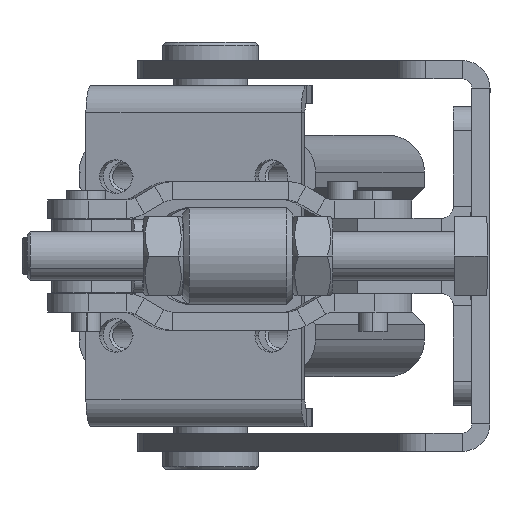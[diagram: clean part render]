
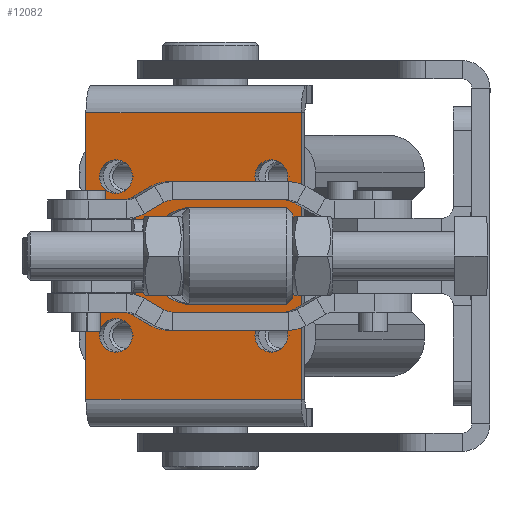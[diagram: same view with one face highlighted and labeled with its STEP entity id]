
A CAD part, left-side view. The second image highlights one B-rep face of the part: STEP entity #12082.
In plain terms, the highlighted planar face has unit normal (-0.98, 0.201, 0) as drawn and (0, -1, 0) by its records, which use the part's own axes.
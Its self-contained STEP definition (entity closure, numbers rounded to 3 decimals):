
#73 = ORIENTED_EDGE ( 'NONE', *, *, #9367, .T. ) ;
#237 = FACE_BOUND ( 'NONE', #19068, .T. ) ;
#436 = VERTEX_POINT ( 'NONE', #11365 ) ;
#507 = CARTESIAN_POINT ( 'NONE',  ( -23.5, -3., -3.767 ) ) ;
#638 = CARTESIAN_POINT ( 'NONE',  ( -13., -3., -13. ) ) ;
#655 = VECTOR ( 'NONE', #1910, 1000. ) ;
#730 = FACE_BOUND ( 'NONE', #8076, .T. ) ;
#732 = DIRECTION ( 'NONE',  ( 0., 1., 0. ) ) ;
#739 = ORIENTED_EDGE ( 'NONE', *, *, #15134, .F. ) ;
#893 = EDGE_CURVE ( 'NONE', #13934, #7459, #4825, .T. ) ;
#1109 = ORIENTED_EDGE ( 'NONE', *, *, #13000, .T. ) ;
#1194 = CIRCLE ( 'NONE', #18077, 2.75 ) ;
#1288 = EDGE_CURVE ( 'NONE', #7865, #11873, #16010, .T. ) ;
#1362 = DIRECTION ( 'NONE',  ( 0., 1., 0. ) ) ;
#1608 = DIRECTION ( 'NONE',  ( 0., 1., 0. ) ) ;
#1910 = DIRECTION ( 'NONE',  ( 1., 0., 0. ) ) ;
#1993 = AXIS2_PLACEMENT_3D ( 'NONE', #10108, #732, #11688 ) ;
#2063 = CIRCLE ( 'NONE', #9134, 8. ) ;
#2211 = DIRECTION ( 'NONE',  ( 0., 0., 1. ) ) ;
#2347 = EDGE_CURVE ( 'NONE', #436, #12020, #2063, .T. ) ;
#2918 = AXIS2_PLACEMENT_3D ( 'NONE', #8384, #19265, #9949 ) ;
#3128 = LINE ( 'NONE', #507, #6305 ) ;
#3155 = VERTEX_POINT ( 'NONE', #3231 ) ;
#3231 = CARTESIAN_POINT ( 'NONE',  ( -13., -3., -15.75 ) ) ;
#3416 = DIRECTION ( 'NONE',  ( 0., 1., 0. ) ) ;
#3472 = CARTESIAN_POINT ( 'NONE',  ( 13., -3., -13. ) ) ;
#3599 = DIRECTION ( 'NONE',  ( 0., 0., -1. ) ) ;
#3650 = DIRECTION ( 'NONE',  ( 0., 0., -1. ) ) ;
#3942 = DIRECTION ( 'NONE',  ( 0., 1., 0. ) ) ;
#4602 = VERTEX_POINT ( 'NONE', #12447 ) ;
#4652 = ORIENTED_EDGE ( 'NONE', *, *, #14852, .F. ) ;
#4659 = EDGE_CURVE ( 'NONE', #13631, #3155, #6659, .T. ) ;
#4825 = LINE ( 'NONE', #17594, #655 ) ;
#5042 = DIRECTION ( 'NONE',  ( 0., 0., 1. ) ) ;
#5124 = CIRCLE ( 'NONE', #9197, 2.75 ) ;
#5216 = CARTESIAN_POINT ( 'NONE',  ( -13., -3., 15.75 ) ) ;
#5496 = CIRCLE ( 'NONE', #14109, 2.75 ) ;
#5704 = PLANE ( 'NONE',  #19222 ) ;
#5927 = VERTEX_POINT ( 'NONE', #15326 ) ;
#6231 = CARTESIAN_POINT ( 'NONE',  ( 13., -3., 13. ) ) ;
#6289 = EDGE_CURVE ( 'NONE', #3155, #13631, #5124, .T. ) ;
#6305 = VECTOR ( 'NONE', #3650, 1000. ) ;
#6356 = CARTESIAN_POINT ( 'NONE',  ( -13., -3., -13. ) ) ;
#6418 = AXIS2_PLACEMENT_3D ( 'NONE', #3472, #14381, #5042 ) ;
#6431 = EDGE_LOOP ( 'NONE', ( #15275, #9558 ) ) ;
#6659 = CIRCLE ( 'NONE', #6949, 2.75 ) ;
#6949 = AXIS2_PLACEMENT_3D ( 'NONE', #6356, #17507, #8188 ) ;
#7098 = VERTEX_POINT ( 'NONE', #19720 ) ;
#7276 = DIRECTION ( 'NONE',  ( 0., 1., 0. ) ) ;
#7459 = VERTEX_POINT ( 'NONE', #9683 ) ;
#7504 = EDGE_CURVE ( 'NONE', #12020, #436, #15572, .T. ) ;
#7602 = VERTEX_POINT ( 'NONE', #13447 ) ;
#7751 = VECTOR ( 'NONE', #18203, 1000. ) ;
#7790 = DIRECTION ( 'NONE',  ( 0., 0., 1. ) ) ;
#7865 = VERTEX_POINT ( 'NONE', #17224 ) ;
#8068 = FACE_OUTER_BOUND ( 'NONE', #8493, .T. ) ;
#8076 = EDGE_LOOP ( 'NONE', ( #1109, #15830 ) ) ;
#8088 = EDGE_CURVE ( 'NONE', #13934, #4602, #3128, .T. ) ;
#8188 = DIRECTION ( 'NONE',  ( 0., 0., 1. ) ) ;
#8209 = LINE ( 'NONE', #12959, #20169 ) ;
#8384 = CARTESIAN_POINT ( 'NONE',  ( -13., -3., 13. ) ) ;
#8493 = EDGE_LOOP ( 'NONE', ( #4652, #11198, #19581, #739 ) ) ;
#8665 = CIRCLE ( 'NONE', #13999, 2.75 ) ;
#8709 = ORIENTED_EDGE ( 'NONE', *, *, #7504, .T. ) ;
#8839 = EDGE_LOOP ( 'NONE', ( #73, #14600 ) ) ;
#9134 = AXIS2_PLACEMENT_3D ( 'NONE', #12785, #3416, #14329 ) ;
#9172 = AXIS2_PLACEMENT_3D ( 'NONE', #13300, #3942, #14836 ) ;
#9197 = AXIS2_PLACEMENT_3D ( 'NONE', #638, #11587, #2211 ) ;
#9367 = EDGE_CURVE ( 'NONE', #7602, #7098, #11419, .T. ) ;
#9511 = EDGE_LOOP ( 'NONE', ( #12590, #15352 ) ) ;
#9558 = ORIENTED_EDGE ( 'NONE', *, *, #1288, .T. ) ;
#9683 = CARTESIAN_POINT ( 'NONE',  ( 23.5, -3., 18. ) ) ;
#9949 = DIRECTION ( 'NONE',  ( 0., 0., 1. ) ) ;
#10108 = CARTESIAN_POINT ( 'NONE',  ( 0., -3., 0. ) ) ;
#10742 = CARTESIAN_POINT ( 'NONE',  ( -13., -3., 13. ) ) ;
#10980 = CARTESIAN_POINT ( 'NONE',  ( 13., -3., -13. ) ) ;
#11198 = ORIENTED_EDGE ( 'NONE', *, *, #893, .F. ) ;
#11365 = CARTESIAN_POINT ( 'NONE',  ( 0., -3., 8. ) ) ;
#11419 = CIRCLE ( 'NONE', #6418, 2.75 ) ;
#11587 = DIRECTION ( 'NONE',  ( 0., 1., 0. ) ) ;
#11688 = DIRECTION ( 'NONE',  ( 0., 0., 1. ) ) ;
#11873 = VERTEX_POINT ( 'NONE', #5216 ) ;
#12020 = VERTEX_POINT ( 'NONE', #19529 ) ;
#12082 = ADVANCED_FACE ( 'NONE', ( #16345, #730, #12716, #12249, #8068, #237 ), #5704, .F. ) ;
#12249 = FACE_BOUND ( 'NONE', #9511, .T. ) ;
#12323 = DIRECTION ( 'NONE',  ( 0., 0., 1. ) ) ;
#12447 = CARTESIAN_POINT ( 'NONE',  ( -23.5, -3., -18. ) ) ;
#12480 = VERTEX_POINT ( 'NONE', #17453 ) ;
#12553 = DIRECTION ( 'NONE',  ( 0., 0., 1. ) ) ;
#12590 = ORIENTED_EDGE ( 'NONE', *, *, #4659, .T. ) ;
#12716 = FACE_BOUND ( 'NONE', #8839, .T. ) ;
#12785 = CARTESIAN_POINT ( 'NONE',  ( 0., -3., 0. ) ) ;
#12959 = CARTESIAN_POINT ( 'NONE',  ( 23.5, -3., -3.767 ) ) ;
#13000 = EDGE_CURVE ( 'NONE', #12480, #13728, #1194, .T. ) ;
#13046 = CIRCLE ( 'NONE', #9172, 2.75 ) ;
#13300 = CARTESIAN_POINT ( 'NONE',  ( 13., -3., 13. ) ) ;
#13447 = CARTESIAN_POINT ( 'NONE',  ( 13., -3., -10.25 ) ) ;
#13631 = VERTEX_POINT ( 'NONE', #15452 ) ;
#13728 = VERTEX_POINT ( 'NONE', #14089 ) ;
#13934 = VERTEX_POINT ( 'NONE', #19174 ) ;
#13999 = AXIS2_PLACEMENT_3D ( 'NONE', #10980, #1608, #12553 ) ;
#14089 = CARTESIAN_POINT ( 'NONE',  ( 13., -3., 10.25 ) ) ;
#14109 = AXIS2_PLACEMENT_3D ( 'NONE', #10742, #1362, #12323 ) ;
#14329 = DIRECTION ( 'NONE',  ( 0., 0., 1. ) ) ;
#14381 = DIRECTION ( 'NONE',  ( 0., 1., 0. ) ) ;
#14600 = ORIENTED_EDGE ( 'NONE', *, *, #17325, .T. ) ;
#14836 = DIRECTION ( 'NONE',  ( 0., 0., 1. ) ) ;
#14852 = EDGE_CURVE ( 'NONE', #7459, #5927, #8209, .T. ) ;
#15025 = CARTESIAN_POINT ( 'NONE',  ( 39.5, -3., -3.767 ) ) ;
#15134 = EDGE_CURVE ( 'NONE', #5927, #4602, #19695, .T. ) ;
#15275 = ORIENTED_EDGE ( 'NONE', *, *, #16624, .T. ) ;
#15326 = CARTESIAN_POINT ( 'NONE',  ( 23.5, -3., -18. ) ) ;
#15352 = ORIENTED_EDGE ( 'NONE', *, *, #6289, .T. ) ;
#15452 = CARTESIAN_POINT ( 'NONE',  ( -13., -3., -10.25 ) ) ;
#15572 = CIRCLE ( 'NONE', #1993, 8. ) ;
#15604 = ORIENTED_EDGE ( 'NONE', *, *, #2347, .T. ) ;
#15830 = ORIENTED_EDGE ( 'NONE', *, *, #17015, .T. ) ;
#16010 = CIRCLE ( 'NONE', #2918, 2.75 ) ;
#16345 = FACE_BOUND ( 'NONE', #6431, .T. ) ;
#16624 = EDGE_CURVE ( 'NONE', #11873, #7865, #5496, .T. ) ;
#16683 = CARTESIAN_POINT ( 'NONE',  ( 32.168, -3., -18. ) ) ;
#17015 = EDGE_CURVE ( 'NONE', #13728, #12480, #13046, .T. ) ;
#17105 = DIRECTION ( 'NONE',  ( 0., 1., 0. ) ) ;
#17224 = CARTESIAN_POINT ( 'NONE',  ( -13., -3., 10.25 ) ) ;
#17325 = EDGE_CURVE ( 'NONE', #7098, #7602, #8665, .T. ) ;
#17453 = CARTESIAN_POINT ( 'NONE',  ( 13., -3., 15.75 ) ) ;
#17507 = DIRECTION ( 'NONE',  ( 0., 1., 0. ) ) ;
#17594 = CARTESIAN_POINT ( 'NONE',  ( -32.168, -3., 18. ) ) ;
#18077 = AXIS2_PLACEMENT_3D ( 'NONE', #6231, #17105, #7790 ) ;
#18183 = DIRECTION ( 'NONE',  ( 0., 0., 1. ) ) ;
#18203 = DIRECTION ( 'NONE',  ( -1., 0., 0. ) ) ;
#19068 = EDGE_LOOP ( 'NONE', ( #15604, #8709 ) ) ;
#19174 = CARTESIAN_POINT ( 'NONE',  ( -23.5, -3., 18. ) ) ;
#19222 = AXIS2_PLACEMENT_3D ( 'NONE', #15025, #7276, #18183 ) ;
#19265 = DIRECTION ( 'NONE',  ( 0., 1., 0. ) ) ;
#19529 = CARTESIAN_POINT ( 'NONE',  ( 0., -3., -8. ) ) ;
#19581 = ORIENTED_EDGE ( 'NONE', *, *, #8088, .T. ) ;
#19695 = LINE ( 'NONE', #16683, #7751 ) ;
#19720 = CARTESIAN_POINT ( 'NONE',  ( 13., -3., -15.75 ) ) ;
#20169 = VECTOR ( 'NONE', #3599, 1000. ) ;
